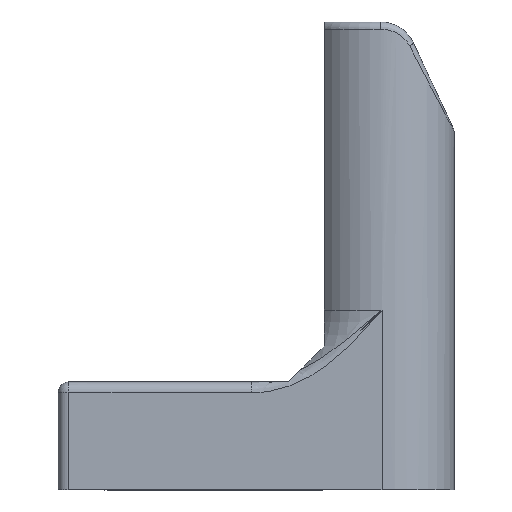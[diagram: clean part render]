
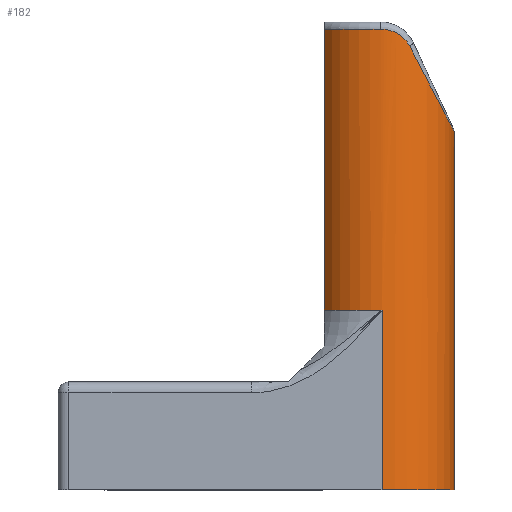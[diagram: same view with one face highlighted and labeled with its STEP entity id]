
A CAD part, front view. The second image highlights one B-rep face of the part: STEP entity #182.
In plain terms, the highlighted cylindrical face has radius 10 mm (diameter 20 mm), a partial arc.
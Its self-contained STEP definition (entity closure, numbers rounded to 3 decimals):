
#75=CARTESIAN_POINT('Control Point',(3.828,-9.238,61.69)) ;
#76=CARTESIAN_POINT('Control Point',(4.735,-8.862,59.94)) ;
#77=CARTESIAN_POINT('Control Point',(6.437,-7.842,56.655)) ;
#78=CARTESIAN_POINT('Control Point',(8.436,-5.636,52.797)) ;
#79=CARTESIAN_POINT('Control Point',(9.709,-2.945,50.34)) ;
#80=CARTESIAN_POINT('Control Point',(10.,-0.982,49.778)) ;
#81=CARTESIAN_POINT('Control Point',(10.,0.,49.778)) ;
#82=CARTESIAN_POINT('Vertex',(10.,0.,49.778)) ;
#84=CARTESIAN_POINT('Vertex',(3.828,-9.238,61.69)) ;
#117=CARTESIAN_POINT('Axis2P3D Location',(0.,0.,90.)) ;
#122=CARTESIAN_POINT('Line Origine',(10.,0.,90.)) ;
#126=CARTESIAN_POINT('Vertex',(10.,0.,0.)) ;
#130=CARTESIAN_POINT('Control Point',(3.828,-9.238,61.69)) ;
#131=CARTESIAN_POINT('Control Point',(3.378,-9.425,62.558)) ;
#132=CARTESIAN_POINT('Control Point',(2.672,-9.687,63.254)) ;
#133=CARTESIAN_POINT('Control Point',(1.778,-9.915,63.752)) ;
#134=CARTESIAN_POINT('Control Point',(0.795,-10.018,64.)) ;
#135=CARTESIAN_POINT('Control Point',(-0.2,-9.998,64.)) ;
#136=CARTESIAN_POINT('Vertex',(-0.2,-9.998,64.)) ;
#139=CARTESIAN_POINT('Axis2P3D Location',(0.,0.,64.)) ;
#143=CARTESIAN_POINT('Vertex',(-8.,-6.,64.)) ;
#146=CARTESIAN_POINT('Line Origine',(-8.,-6.,90.)) ;
#150=CARTESIAN_POINT('Vertex',(-8.,-6.,25.)) ;
#153=CARTESIAN_POINT('Axis2P3D Location',(0.,0.,25.)) ;
#157=CARTESIAN_POINT('Vertex',(0.,-10.,25.)) ;
#160=CARTESIAN_POINT('Line Origine',(0.,-10.,90.)) ;
#164=CARTESIAN_POINT('Vertex',(0.,-10.,0.)) ;
#167=CARTESIAN_POINT('Axis2P3D Location',(0.,0.,0.)) ;
#118=DIRECTION('Axis2P3D Direction',(-0.,0.,-1.)) ;
#119=DIRECTION('Axis2P3D XDirection',(1.,0.,-0.)) ;
#123=DIRECTION('Vector Direction',(0.,0.,-1.)) ;
#140=DIRECTION('Axis2P3D Direction',(-0.,0.,-1.)) ;
#147=DIRECTION('Vector Direction',(0.,0.,-1.)) ;
#154=DIRECTION('Axis2P3D Direction',(-0.,0.,-1.)) ;
#161=DIRECTION('Vector Direction',(0.,0.,-1.)) ;
#168=DIRECTION('Axis2P3D Direction',(-0.,0.,-1.)) ;
#120=AXIS2_PLACEMENT_3D('Cylinder Axis2P3D',#117,#118,#119) ;
#141=AXIS2_PLACEMENT_3D('Circle Axis2P3D',#139,#140,$) ;
#155=AXIS2_PLACEMENT_3D('Circle Axis2P3D',#153,#154,$) ;
#169=AXIS2_PLACEMENT_3D('Circle Axis2P3D',#167,#168,$) ;
#173=ORIENTED_EDGE('',*,*,#128,.F.) ;
#174=ORIENTED_EDGE('',*,*,#86,.T.) ;
#175=ORIENTED_EDGE('',*,*,#138,.T.) ;
#176=ORIENTED_EDGE('',*,*,#145,.T.) ;
#177=ORIENTED_EDGE('',*,*,#152,.F.) ;
#178=ORIENTED_EDGE('',*,*,#159,.T.) ;
#179=ORIENTED_EDGE('',*,*,#166,.T.) ;
#180=ORIENTED_EDGE('',*,*,#171,.F.) ;
#124=VECTOR('Line Direction',#123,1.) ;
#148=VECTOR('Line Direction',#147,1.) ;
#162=VECTOR('Line Direction',#161,1.) ;
#182=ADVANCED_FACE('Importato1',(#181),#121,.T.) ;
#129=B_SPLINE_CURVE_WITH_KNOTS('',5,(#130,#131,#132,#133,#134,#135),.UNSPECIFIED.,.F.,.U.,(6,6),(0.,7.009),.UNSPECIFIED.) ;
#142=CIRCLE('generated circle',#141,10.) ;
#156=CIRCLE('generated circle',#155,10.) ;
#170=CIRCLE('generated circle',#169,10.) ;
#121=CYLINDRICAL_SURFACE('generated cylinder',#120,10.) ;
#86=EDGE_CURVE('',#83,#85,#74,.F.) ;
#128=EDGE_CURVE('',#83,#127,#125,.T.) ;
#138=EDGE_CURVE('',#85,#137,#129,.T.) ;
#145=EDGE_CURVE('',#137,#144,#142,.T.) ;
#152=EDGE_CURVE('',#151,#144,#149,.F.) ;
#159=EDGE_CURVE('',#151,#158,#156,.F.) ;
#166=EDGE_CURVE('',#158,#165,#163,.T.) ;
#171=EDGE_CURVE('',#127,#165,#170,.T.) ;
#172=EDGE_LOOP('',(#173,#174,#175,#176,#177,#178,#179,#180)) ;
#181=FACE_OUTER_BOUND('',#172,.T.) ;
#125=LINE('Line',#122,#124) ;
#149=LINE('Line',#146,#148) ;
#163=LINE('Line',#160,#162) ;
#83=VERTEX_POINT('',#82) ;
#85=VERTEX_POINT('',#84) ;
#127=VERTEX_POINT('',#126) ;
#137=VERTEX_POINT('',#136) ;
#144=VERTEX_POINT('',#143) ;
#151=VERTEX_POINT('',#150) ;
#158=VERTEX_POINT('',#157) ;
#165=VERTEX_POINT('',#164) ;
#74=(BOUNDED_CURVE()B_SPLINE_CURVE(3,(#75,#76,#77,#78,#79,#80,#81),.UNSPECIFIED.,.F.,.U.)B_SPLINE_CURVE_WITH_KNOTS((4,1,1,1,4),(5.105,9.383,13.66,17.937,22.215),.UNSPECIFIED.)CURVE()GEOMETRIC_REPRESENTATION_ITEM()RATIONAL_B_SPLINE_CURVE((1.,1.,1.,1.,1.,1.,1.))REPRESENTATION_ITEM('')) ;
